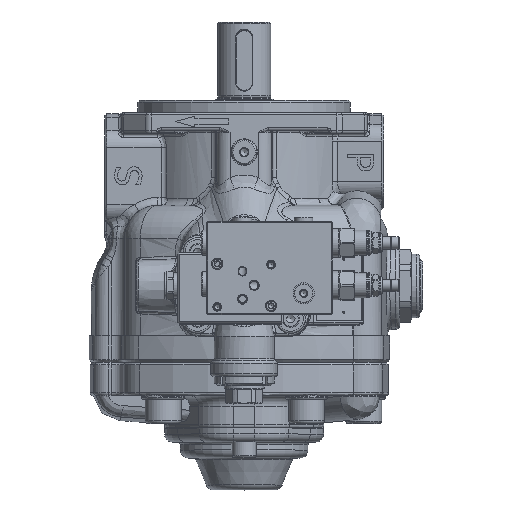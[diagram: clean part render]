
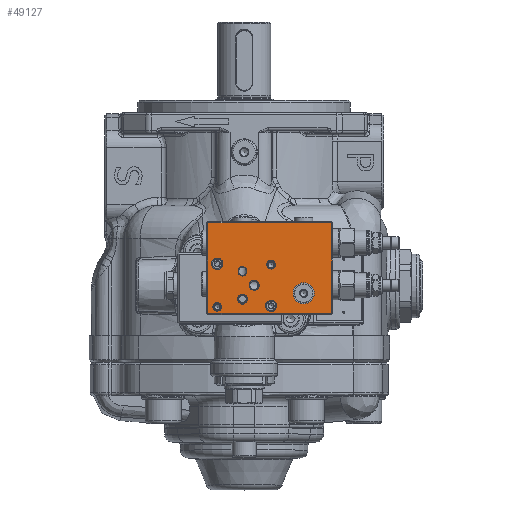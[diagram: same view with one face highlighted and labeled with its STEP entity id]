
A CAD part, top view. The second image highlights one B-rep face of the part: STEP entity #49127.
In plain terms, the highlighted planar face has unit normal (0, 0, 1).
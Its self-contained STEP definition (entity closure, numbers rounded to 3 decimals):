
#748=FACE_BOUND('',#9278,.T.);
#749=FACE_BOUND('',#9279,.T.);
#750=FACE_BOUND('',#9280,.T.);
#751=FACE_BOUND('',#9281,.T.);
#752=FACE_BOUND('',#9282,.T.);
#753=FACE_BOUND('',#9283,.T.);
#754=FACE_BOUND('',#9284,.T.);
#755=FACE_BOUND('',#9285,.T.);
#2166=PLANE('',#53806);
#3568=B_SPLINE_CURVE_WITH_KNOTS('',3,(#101224,#101225,#101226,#101227,#101228,
#101229,#101230,#101231,#101232,#101233,#101234,#101235,#101236,#101237,
#101238,#101239,#101240),.UNSPECIFIED.,.T.,.F.,(4,1,1,1,1,1,1,1,1,1,1,1,
1,1,4),(-2.154,-2.077,-2.,-1.923,
-1.846,-1.538,-1.231,-1.128,
-0.923,-0.615,-0.308,-0.231,
-0.154,-0.077,0.),.UNSPECIFIED.);
#6316=FACE_OUTER_BOUND('',#9277,.T.);
#9277=EDGE_LOOP('',(#41832,#41833,#41834,#41835));
#9278=EDGE_LOOP('',(#41836));
#9279=EDGE_LOOP('',(#41837));
#9280=EDGE_LOOP('',(#41838));
#9281=EDGE_LOOP('',(#41839));
#9282=EDGE_LOOP('',(#41840));
#9283=EDGE_LOOP('',(#41841,#41842));
#9284=EDGE_LOOP('',(#41843));
#9285=EDGE_LOOP('',(#41844));
#9694=CIRCLE('',#49616,4.25);
#11778=CIRCLE('',#53340,4.25);
#11812=CIRCLE('',#53400,8.);
#11813=CIRCLE('',#53401,8.);
#11902=CIRCLE('',#53768,3.25);
#11907=CIRCLE('',#53775,3.75);
#11908=CIRCLE('',#53777,3.25);
#11911=CIRCLE('',#53784,3.75);
#14875=LINE('',#101102,#17657);
#14880=LINE('',#101110,#17662);
#14885=LINE('',#101118,#17667);
#14888=LINE('',#101122,#17670);
#17657=VECTOR('',#65642,10.);
#17662=VECTOR('',#65651,10.);
#17667=VECTOR('',#65660,10.);
#17670=VECTOR('',#65665,10.);
#18131=VERTEX_POINT('',#68166);
#21302=VERTEX_POINT('',#98967);
#21357=VERTEX_POINT('',#99374);
#21358=VERTEX_POINT('',#99375);
#21829=VERTEX_POINT('',#101098);
#21830=VERTEX_POINT('',#101100);
#21831=VERTEX_POINT('',#101108);
#21832=VERTEX_POINT('',#101115);
#21834=VERTEX_POINT('',#101219);
#21835=VERTEX_POINT('',#101242);
#21840=VERTEX_POINT('',#101256);
#21841=VERTEX_POINT('',#101260);
#21846=VERTEX_POINT('',#101274);
#22645=EDGE_CURVE('',#18131,#18131,#9694,.T.);
#27777=EDGE_CURVE('',#21302,#21302,#11778,.T.);
#27852=EDGE_CURVE('',#21357,#21358,#11812,.T.);
#27853=EDGE_CURVE('',#21358,#21357,#11813,.T.);
#28562=EDGE_CURVE('',#21830,#21829,#14875,.T.);
#28567=EDGE_CURVE('',#21831,#21830,#14880,.T.);
#28572=EDGE_CURVE('',#21829,#21832,#14885,.T.);
#28575=EDGE_CURVE('',#21832,#21831,#14888,.T.);
#28579=EDGE_CURVE('',#21834,#21834,#3568,.T.);
#28580=EDGE_CURVE('',#21835,#21835,#11902,.T.);
#28587=EDGE_CURVE('',#21840,#21840,#11907,.T.);
#28589=EDGE_CURVE('',#21841,#21841,#11908,.T.);
#28596=EDGE_CURVE('',#21846,#21846,#11911,.T.);
#41832=ORIENTED_EDGE('',*,*,#28575,.F.);
#41833=ORIENTED_EDGE('',*,*,#28572,.F.);
#41834=ORIENTED_EDGE('',*,*,#28562,.F.);
#41835=ORIENTED_EDGE('',*,*,#28567,.F.);
#41836=ORIENTED_EDGE('',*,*,#27777,.F.);
#41837=ORIENTED_EDGE('',*,*,#22645,.F.);
#41838=ORIENTED_EDGE('',*,*,#28596,.F.);
#41839=ORIENTED_EDGE('',*,*,#28587,.F.);
#41840=ORIENTED_EDGE('',*,*,#28579,.F.);
#41841=ORIENTED_EDGE('',*,*,#27852,.T.);
#41842=ORIENTED_EDGE('',*,*,#27853,.T.);
#41843=ORIENTED_EDGE('',*,*,#28580,.F.);
#41844=ORIENTED_EDGE('',*,*,#28589,.F.);
#49127=ADVANCED_FACE('',(#6316,#748,#749,#750,#751,#752,#753,#754,#755),
#2166,.T.);
#49616=AXIS2_PLACEMENT_3D('',#68168,#54981,#54982);
#53340=AXIS2_PLACEMENT_3D('',#98969,#64196,#64197);
#53400=AXIS2_PLACEMENT_3D('',#99376,#64340,#64341);
#53401=AXIS2_PLACEMENT_3D('',#99377,#64342,#64343);
#53768=AXIS2_PLACEMENT_3D('',#101243,#65687,#65688);
#53775=AXIS2_PLACEMENT_3D('',#101257,#65703,#65704);
#53777=AXIS2_PLACEMENT_3D('',#101261,#65708,#65709);
#53784=AXIS2_PLACEMENT_3D('',#101275,#65724,#65725);
#53806=AXIS2_PLACEMENT_3D('',#101315,#65779,#65780);
#54981=DIRECTION('center_axis',(0.,0.,
1.));
#54982=DIRECTION('ref_axis',(1.,0.,0.));
#64196=DIRECTION('center_axis',(0.,0.,
1.));
#64197=DIRECTION('ref_axis',(1.,0.,0.));
#64340=DIRECTION('center_axis',(0.,0.,
-1.));
#64341=DIRECTION('ref_axis',(-1.,0.,0.));
#64342=DIRECTION('center_axis',(0.,0.,
-1.));
#64343=DIRECTION('ref_axis',(-1.,0.,0.));
#65642=DIRECTION('',(0.,1.,0.));
#65651=DIRECTION('',(-1.,0.,0.));
#65660=DIRECTION('',(1.,0.,0.));
#65665=DIRECTION('',(0.,-1.,0.));
#65687=DIRECTION('center_axis',(0.,0.,
1.));
#65688=DIRECTION('ref_axis',(1.,0.,0.));
#65703=DIRECTION('center_axis',(0.,0.,
1.));
#65704=DIRECTION('ref_axis',(1.,0.,0.));
#65708=DIRECTION('center_axis',(0.,0.,
1.));
#65709=DIRECTION('ref_axis',(1.,0.,0.));
#65724=DIRECTION('center_axis',(0.,0.,
1.));
#65725=DIRECTION('ref_axis',(1.,0.,0.));
#65779=DIRECTION('center_axis',(0.,0.,
1.));
#65780=DIRECTION('ref_axis',(-1.,0.,0.));
#68166=CARTESIAN_POINT('',(-20.939,-23.062,255.499));
#68168=CARTESIAN_POINT('Origin',(-16.689,-23.062,255.499));
#98967=CARTESIAN_POINT('',(19.561,-54.812,255.499));
#98969=CARTESIAN_POINT('Origin',(23.811,-54.812,255.499));
#99374=CARTESIAN_POINT('',(40.311,-45.312,255.499));
#99375=CARTESIAN_POINT('',(56.311,-45.312,255.499));
#99376=CARTESIAN_POINT('Origin',(48.311,-45.312,255.499));
#99377=CARTESIAN_POINT('Origin',(48.311,-45.312,255.499));
#101098=CARTESIAN_POINT('',(-23.689,7.688,255.499));
#101100=CARTESIAN_POINT('',(-23.689,-60.312,255.499));
#101102=CARTESIAN_POINT('',(-23.689,-8.812,255.499));
#101108=CARTESIAN_POINT('',(69.311,-60.312,255.499));
#101110=CARTESIAN_POINT('',(-0.939,-60.312,255.499));
#101115=CARTESIAN_POINT('',(69.311,7.688,255.499));
#101118=CARTESIAN_POINT('',(46.561,7.688,255.499));
#101122=CARTESIAN_POINT('',(69.311,-43.812,255.499));
#101219=CARTESIAN_POINT('',(2.311,-25.306,255.499));
#101224=CARTESIAN_POINT('Ctrl Pts',(2.311,-25.306,
255.499));
#101225=CARTESIAN_POINT('Ctrl Pts',(2.14,-25.306,
255.499));
#101226=CARTESIAN_POINT('Ctrl Pts',(1.768,-25.324,
255.499));
#101227=CARTESIAN_POINT('Ctrl Pts',(0.934,-25.556,
255.499));
#101228=CARTESIAN_POINT('Ctrl Pts',(0.171,-26.049,
255.499));
#101229=CARTESIAN_POINT('Ctrl Pts',(-0.927,-27.207,
255.499));
#101230=CARTESIAN_POINT('Ctrl Pts',(-1.445,-29.673,
255.499));
#101231=CARTESIAN_POINT('Ctrl Pts',(0.124,-31.795,
255.499));
#101232=CARTESIAN_POINT('Ctrl Pts',(2.117,-32.437,
255.499));
#101233=CARTESIAN_POINT('Ctrl Pts',(4.258,-32.102,
255.499));
#101234=CARTESIAN_POINT('Ctrl Pts',(6.076,-29.665,
255.499));
#101235=CARTESIAN_POINT('Ctrl Pts',(5.549,-27.21,
255.499));
#101236=CARTESIAN_POINT('Ctrl Pts',(4.452,-26.05,
255.499));
#101237=CARTESIAN_POINT('Ctrl Pts',(3.687,-25.557,255.499));
#101238=CARTESIAN_POINT('Ctrl Pts',(2.853,-25.325,255.499));
#101239=CARTESIAN_POINT('Ctrl Pts',(2.482,-25.306,
255.499));
#101240=CARTESIAN_POINT('Ctrl Pts',(2.311,-25.306,
255.499));
#101242=CARTESIAN_POINT('',(-19.939,-55.562,255.499));
#101243=CARTESIAN_POINT('Origin',(-16.689,-55.562,255.499));
#101256=CARTESIAN_POINT('',(7.361,-39.312,255.499));
#101257=CARTESIAN_POINT('Origin',(11.111,-39.312,255.499));
#101260=CARTESIAN_POINT('',(20.561,-23.812,255.499));
#101261=CARTESIAN_POINT('Origin',(23.811,-23.812,255.499));
#101274=CARTESIAN_POINT('',(-1.439,-49.712,255.499));
#101275=CARTESIAN_POINT('Origin',(2.311,-49.712,255.499));
#101315=CARTESIAN_POINT('Origin',(22.811,-26.312,255.499));
